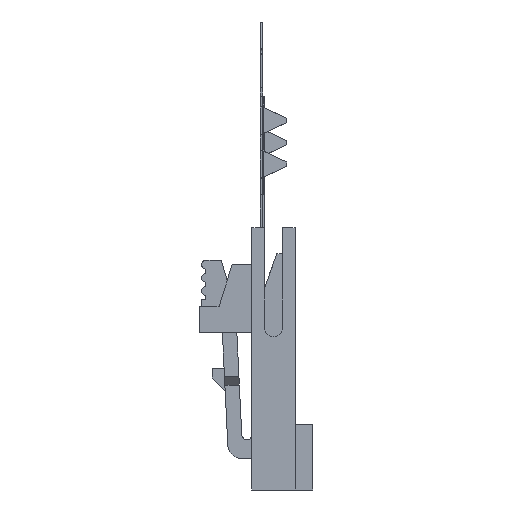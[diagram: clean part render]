
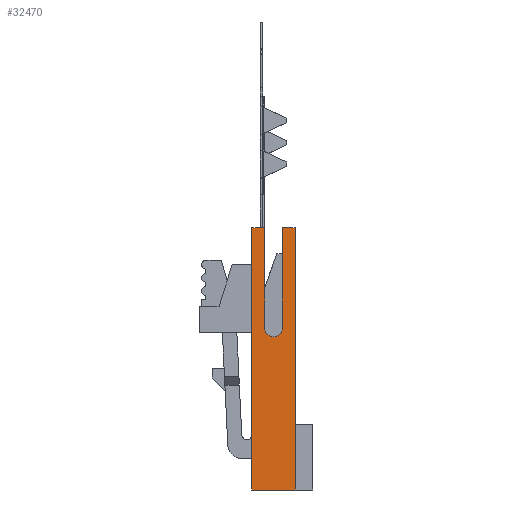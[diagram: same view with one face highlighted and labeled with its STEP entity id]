
A CAD part, left-side view. The second image highlights one B-rep face of the part: STEP entity #32470.
In plain terms, the highlighted planar face has unit normal (-1, 0, 0).
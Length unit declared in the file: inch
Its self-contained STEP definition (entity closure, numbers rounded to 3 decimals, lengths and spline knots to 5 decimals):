
#17=DIRECTION('',(0.,1.,0.));
#18=VECTOR('',#17,0.0295);
#19=CARTESIAN_POINT('',(-0.9495,0.,0.));
#20=LINE('',#19,#18);
#253=DIRECTION('',(0.,1.,0.));
#254=VECTOR('',#253,0.0295);
#255=CARTESIAN_POINT('',(-0.9495,0.0695,0.));
#256=LINE('',#255,#254);
#738=DIRECTION('',(0.,0.,-1.));
#739=VECTOR('',#738,0.6);
#740=CARTESIAN_POINT('',(-0.9495,0.099,0.));
#741=LINE('',#740,#739);
#5823=DIRECTION('',(0.,1.,0.));
#5824=VECTOR('',#5823,0.099);
#5825=CARTESIAN_POINT('',(-0.9495,0.,-0.6));
#5826=LINE('',#5825,#5824);
#7465=DIRECTION('',(0.,0.,-1.));
#7466=VECTOR('',#7465,0.23);
#7467=CARTESIAN_POINT('',(-0.9495,0.0295,0.));
#7468=LINE('',#7467,#7466);
#7469=DIRECTION('',(0.,0.,-1.));
#7470=VECTOR('',#7469,0.6);
#7471=CARTESIAN_POINT('',(-0.9495,0.,0.));
#7472=LINE('',#7471,#7470);
#7473=DIRECTION('',(0.,0.,-1.));
#7474=VECTOR('',#7473,0.23);
#7475=CARTESIAN_POINT('',(-0.9495,0.0695,0.));
#7476=LINE('',#7475,#7474);
#7477=CARTESIAN_POINT('',(-0.9495,0.0495,-0.23));
#7478=DIRECTION('',(1.,0.,0.));
#7479=DIRECTION('',(0.,-1.,0.));
#7480=AXIS2_PLACEMENT_3D('',#7477,#7478,#7479);
#18052=CARTESIAN_POINT('',(-0.9495,0.,0.));
#18054=VERTEX_POINT('',#18052);
#18059=CARTESIAN_POINT('',(-0.9495,0.,-0.6));
#18060=CARTESIAN_POINT('',(-0.9495,0.099,-0.6));
#18061=VERTEX_POINT('',#18059);
#18062=VERTEX_POINT('',#18060);
#18065=CARTESIAN_POINT('',(-0.9495,0.099,0.));
#18066=VERTEX_POINT('',#18065);
#18075=CARTESIAN_POINT('',(-0.9495,0.0295,0.));
#18076=CARTESIAN_POINT('',(-0.9495,0.0295,-0.23));
#18077=VERTEX_POINT('',#18075);
#18078=VERTEX_POINT('',#18076);
#18079=CARTESIAN_POINT('',(-0.9495,0.0695,-0.23));
#18080=VERTEX_POINT('',#18079);
#18081=CARTESIAN_POINT('',(-0.9495,0.0695,0.));
#18082=VERTEX_POINT('',#18081);
#32455=CARTESIAN_POINT('',(-0.9495,0.,0.));
#32456=DIRECTION('',(-1.,0.,0.));
#32457=DIRECTION('',(0.,1.,0.));
#32458=AXIS2_PLACEMENT_3D('',#32455,#32456,#32457);
#32459=PLANE('',#32458);
#32460=ORIENTED_EDGE('',*,*,#32189,.F.);
#32461=ORIENTED_EDGE('',*,*,#23704,.F.);
#32462=ORIENTED_EDGE('',*,*,#30800,.T.);
#32463=ORIENTED_EDGE('',*,*,#30265,.T.);
#32464=ORIENTED_EDGE('',*,*,#24402,.F.);
#32465=ORIENTED_EDGE('',*,*,#23868,.F.);
#32466=ORIENTED_EDGE('',*,*,#29596,.T.);
#32467=ORIENTED_EDGE('',*,*,#29895,.F.);
#32468=EDGE_LOOP('',(#32460,#32461,#32462,#32463,#32464,#32465,#32466,#32467));
#32469=FACE_OUTER_BOUND('',#32468,.F.);
#32470=ADVANCED_FACE('',(#32469),#32459,.T.);
#7481=CIRCLE('',#7480,0.02);
#23704=EDGE_CURVE('',#18054,#18077,#20,.T.);
#23868=EDGE_CURVE('',#18082,#18066,#256,.T.);
#24402=EDGE_CURVE('',#18066,#18062,#741,.T.);
#29596=EDGE_CURVE('',#18082,#18080,#7476,.T.);
#29895=EDGE_CURVE('',#18078,#18080,#7481,.T.);
#30265=EDGE_CURVE('',#18061,#18062,#5826,.T.);
#30800=EDGE_CURVE('',#18054,#18061,#7472,.T.);
#32189=EDGE_CURVE('',#18077,#18078,#7468,.T.);
